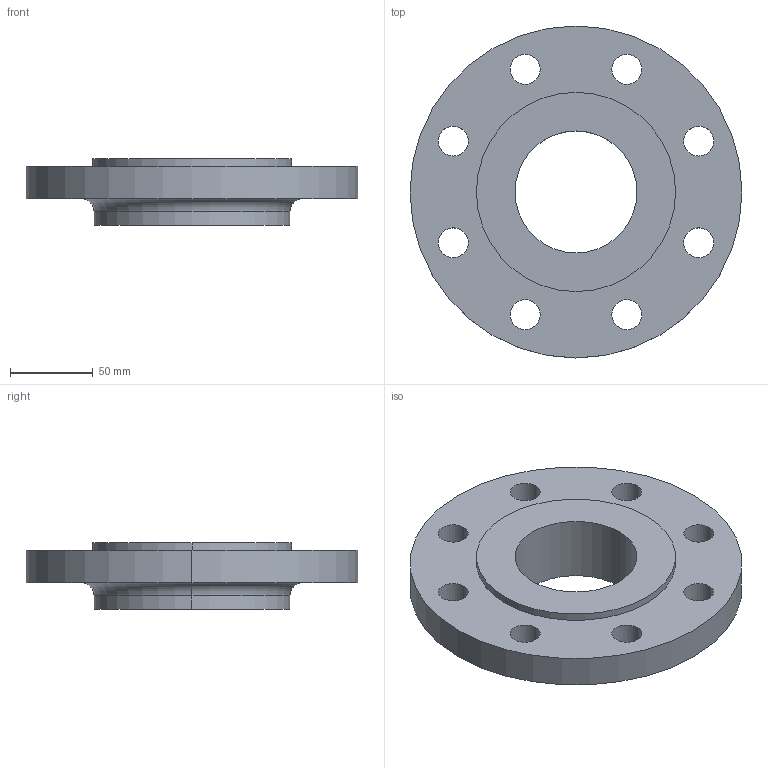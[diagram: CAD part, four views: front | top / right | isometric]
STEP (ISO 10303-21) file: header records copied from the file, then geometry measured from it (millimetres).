
FILE_DESCRIPTION (( 'STEP AP214' ), '1' );
FILE_NAME ('PN40 DN80 Type 13 - Type E Face.STEP', '2019-01-01T19:37:43', ( '' ), ( '' ), 'SwSTEP 2.0', 'SolidWorks 2019', '' );
FILE_SCHEMA (( 'AUTOMOTIVE_DESIGN' ));
Length unit declared in the file: millimetre
Products named in the file (1): PN40 DN80 Type 13 - Type E Face
Bounding box: 200 x 200 x 40 mm (x, y, z)
Volume: 634287.3 mm3; surface area: 86967.5 mm2
Topology: 1 solids, 1 shells, 30 faces, 76 edges, 50 vertices
Faces by surface type: cylinder 24, plane 4, torus 2
Entity records: 1006 total; most frequent: DIRECTION 190, CARTESIAN_POINT 157, ORIENTED_EDGE 152, AXIS2_PLACEMENT_3D 83, EDGE_CURVE 76, CIRCLE 52, EDGE_LOOP 50, VERTEX_POINT 50
